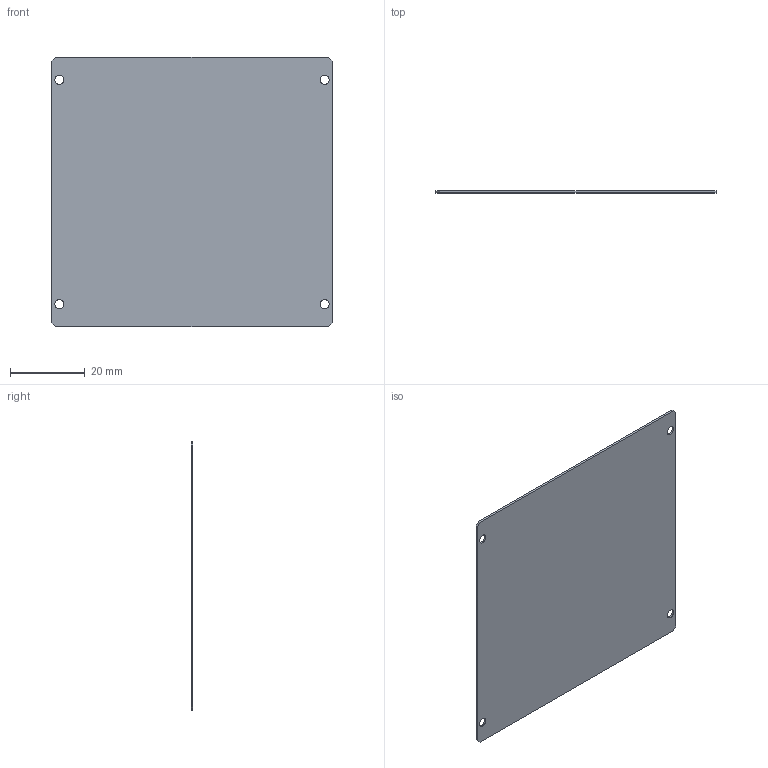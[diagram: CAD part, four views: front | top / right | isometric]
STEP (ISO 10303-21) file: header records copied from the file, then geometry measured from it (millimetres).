
FILE_DESCRIPTION (( 'STEP AP203' ), '1' );
FILE_NAME ('UA06474.STEP', '2020-06-09T00:10:27', ( 'CCS' ), ( 'シーシーエス株式会社' ), 'SwSTEP 2.0', 'SolidWorks 2017', '' );
FILE_SCHEMA (( 'CONFIG_CONTROL_DESIGN' ));
Length unit declared in the file: millimetre
Products named in the file (2): UA06474; KA06474-A001
Assembly tree (1 placements, depth 2):
  UA06474
    KA06474-A001
Bounding box: 75 x 0.5 x 72 mm (x, y, z)
Volume: 2690 mm3; surface area: 10920.7 mm2
Topology: 1 solids, 1 shells, 18 faces, 48 edges, 32 vertices
Faces by surface type: plane 10, cylinder 8
Entity records: 780 total; most frequent: DIRECTION 108, CARTESIAN_POINT 102, ORIENTED_EDGE 96, EDGE_CURVE 48, AXIS2_PLACEMENT_3D 38, LINE 32, VECTOR 32, VERTEX_POINT 32
